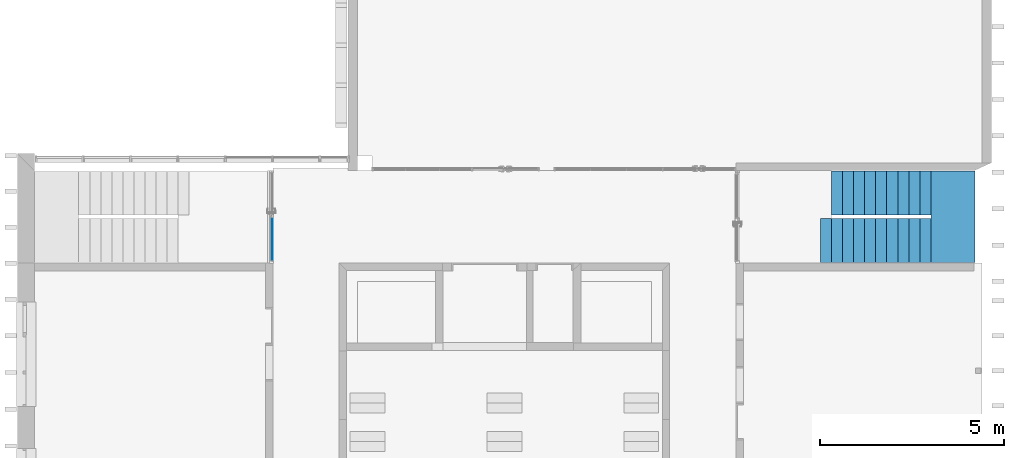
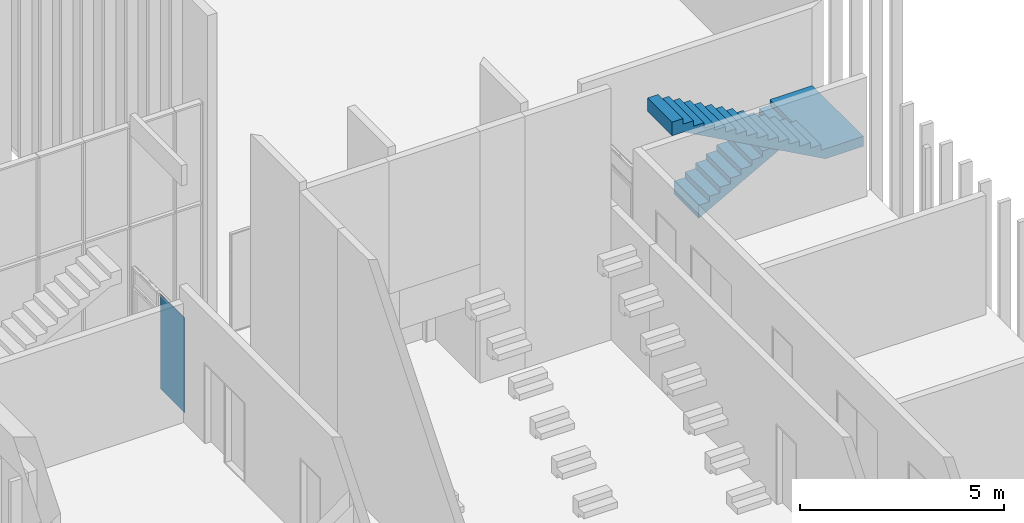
# One storey, part 38 of 62: 2 building element parts, 1 stair, 2 elements without a shape of their own.
"""IFC2X3 building model written with IfcOpenShell, lengths in millimetres."""

from ifc_helpers import new_model, entity, si_unit, converted_unit, derived_unit, money_unit, direction, frame, origin_with_axes, place, context, subcontext, project, spatial, faceted_brep, material, material_list, type_object, element, aggregate, save


model = new_model("IFC2X3")

# Units and contexts
model_context = context("Model", 3, precision=0.01, world=origin_with_axes(), true_north=direction((0.0, 1.0)))
body_context = subcontext(model_context, "Body", "Model", "MODEL_VIEW")
ifc_project = project(units=[si_unit("LENGTHUNIT", "METRE", prefix="MILLI"), si_unit("AREAUNIT", "SQUARE_METRE"), si_unit("VOLUMEUNIT", "CUBIC_METRE"), converted_unit("PLANEANGLEUNIT", "DEGREE", entity("IfcPlaneAngleMeasure", 0.0174532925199), si_unit("PLANEANGLEUNIT", "RADIAN"), dimensions=[0, 0, 0, 0, 0, 0, 0]), si_unit("SOLIDANGLEUNIT", "STERADIAN"), money_unit("EUR"), converted_unit("TIMEUNIT", "Year", entity("IfcTimeMeasure", 31556926.0), si_unit("TIMEUNIT", "SECOND"), dimensions=[0, 0, 1, 0, 0, 0, 0]), si_unit("MASSUNIT", "GRAM", prefix="KILO"), si_unit("THERMODYNAMICTEMPERATUREUNIT", "DEGREE_CELSIUS"), si_unit("LUMINOUSINTENSITYUNIT", "LUMEN"), si_unit("ENERGYUNIT", "JOULE", prefix="MEGA"), derived_unit("THERMALCONDUCTANCEUNIT", [(si_unit("POWERUNIT", "WATT"), 1), (si_unit("LENGTHUNIT", "METRE"), -1), (si_unit("THERMODYNAMICTEMPERATUREUNIT", "KELVIN"), -1)]), derived_unit("SPECIFICHEATCAPACITYUNIT", [(si_unit("ENERGYUNIT", "JOULE"), 1), (si_unit("MASSUNIT", "GRAM", prefix="KILO"), -1), (si_unit("THERMODYNAMICTEMPERATUREUNIT", "KELVIN"), -1)]), derived_unit("MASSDENSITYUNIT", [(si_unit("MASSUNIT", "GRAM", prefix="KILO"), 1), (si_unit("VOLUMEUNIT", "CUBIC_METRE"), -1)])], contexts=[model_context])

# Site, building, storey
site_placement = place(None, origin_with_axes())
site = spatial("IfcSite", under=ifc_project, at=site_placement, Name="Puškini 31, Narva", CompositionType="ELEMENT")
building_placement = place(site_placement, origin_with_axes())
building = spatial("IfcBuilding", under=site, at=building_placement, Name="Narva Riigigümnaasium", CompositionType="ELEMENT")
storey_placement = place(building_placement, frame((0.0, 0.0, 660.0), z_axis=(0.0, 0.0, 1.0), x_axis=(1.0, 0.0, 0.0)))
storey = spatial("IfcBuildingStorey", under=building, at=storey_placement, Name="2.korrus +0.66", CompositionType="ELEMENT", Elevation=660.0)

# Stair
ifc_material_1 = material(Name="Betoon element")
ifc_material_list = material_list([ifc_material_1, ifc_material_1, ifc_material_1])
stair_placement = place(storey_placement, frame((50109.9996857, 222589.999992, 0.0), z_axis=(0.0, 0.0, 1.0), x_axis=(1.0, 0.0, 0.0)))
element("IfcStair", 1, at=stair_placement, inside=storey, material=ifc_material_list, Name="G-TR-08", ShapeType="NOTDEFINED", context=body_context, shape_type="Brep", body=[
    faceted_brep([(2699.99998558, 3.9951768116e-05, 1350.0), (2699.99998558, 1200.00004687, 1350.0), (2699.99998558, 1200.00003245, 1485.0), (2700.0, 3.24517941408e-05, 1485.0), (2869.55315991, 3.9951768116e-05, 1350.0), (2869.55315687, 1200.00004687, 1350.0), (2699.99998558, 1200.00004687, 1256.74575579), (2599.99998558, 1200.00003125, 1201.74575579), (2499.99998558, 1200.00003005, 1146.74575579), (2399.99998558, 1200.00002885, 1091.74575579), (2324.99998558, 1200.00002794, 1050.49575579), (2299.99998558, 1200.00002764, 1036.74575579), (2249.99998558, 1200.00002704, 1009.24575579), (2199.99998558, 1200.00002644, 981.74575579), (2174.99998558, 1200.00002614, 967.99575579), (2099.99998558, 1200.00002524, 926.74575579), (2024.99998558, 1200.00002434, 885.49575579), (1949.99998558, 1200.00002344, 844.24575579), (1874.99998558, 1200.00002254, 802.99575579), (1799.99998558, 1200.00002163, 761.74575579), (1724.99998558, 1200.00002073, 720.49575579), (1699.99998558, 1200.00002043, 706.74575579), (1649.99998558, 1200.00001983, 679.24575579), (1599.99998558, 1200.00001923, 651.74575579), (1574.99998558, 1200.00001893, 637.99575579), (1499.99998558, 1200.00001803, 596.74575579), (1399.99998558, 1200.00001683, 541.74575579), (1299.99998558, 1200.00001562, 486.74575579), (1199.99998558, 1200.00001442, 431.74575579), (1124.99998558, 1200.00001352, 390.49575579), (1049.99998558, 1200.00001262, 349.24575579), (974.999985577, 1200.00001172, 307.99575579), (899.999985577, 1200.00001082, 266.74575579), (799.999985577, 1200.00000962, 211.74575579), (699.999985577, 1200.00000841, 156.74575579), (599.999985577, 1200.00000721, 101.74575579), (524.999985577, 1200.00000631, 60.4957557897), (449.999985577, 1200.00000541, 19.2457557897), (374.999985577, 1200.00000451, -22.0042442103), (299.999985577, 1200.00000361, -63.2542442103), (199.999985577, 1200.0000024, -118.25424421), (99.999985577, 1200.0000012, -173.25424421), (-1.44230196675e-05, 1200.0, -228.25424421), (-1.44230196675e-05, 1200.0, 165.0), (299.999985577, 1200.00000361, 165.0), (299.999985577, 1200.00000361, 330.0), (599.999985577, 1200.00000721, 330.0), (599.999985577, 1200.00000721, 495.0), (899.999985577, 1200.00001082, 495.0), (899.999985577, 1200.00001082, 660.0), (1199.99998558, 1200.00001442, 660.0), (1199.99998558, 1200.00001442, 825.0), (1499.99998558, 1200.00001803, 825.0), (1499.99998558, 1200.00001803, 990.0), (1799.99998558, 1200.00002163, 990.0), (1799.99998558, 1200.00002163, 1155.0), (2099.99998558, 1200.00002524, 1155.0), (2099.99998558, 1200.00002524, 1320.0), (2399.99998558, 1200.00002885, 1320.0), (2399.99998558, 1200.00002885, 1485.0), (2400.0, 2.88460392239e-05, 1485.0), (2400.0, 2.88460392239e-05, 1320.0), (2100.0, 2.52402843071e-05, 1320.0), (2100.0, 2.52402843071e-05, 1155.0), (1800.0, 2.16345293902e-05, 1155.0), (1800.0, 2.16345293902e-05, 990.0), (1500.0, 1.80287744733e-05, 990.0), (1500.0, 1.80287744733e-05, 825.0), (1200.0, 1.44230196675e-05, 825.0), (1200.0, 1.44230196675e-05, 660.0), (900.0, 1.08172647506e-05, 660.0), (900.0, 1.08172647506e-05, 495.0), (600.0, 7.21150983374e-06, 495.0), (600.0, 7.21150983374e-06, 330.0), (300.0, 3.60575491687e-06, 330.0), (300.0, 3.60575491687e-06, 165.0), (0.0, 0.0, 165.0), (0.0, 0.0, -228.25424421), (100.0, 1.20191834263e-06, -173.25424421), (200.0, 2.40383646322e-06, -118.25424421), (300.0, 3.6057545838e-06, -63.2542442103), (375.0, 4.50719384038e-06, -22.0042442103), (450.0, 5.40863231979e-06, 19.2457557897), (525.0, 6.31007091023e-06, 60.4957557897), (600.0, 7.21150950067e-06, 101.74575579), (700.0, 8.41342806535e-06, 156.74575579), (800.0, 9.615346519e-06, 211.74575579), (900.0, 1.08172649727e-05, 266.74575579), (975.0, 1.17187036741e-05, 307.99575579), (1050.0, 1.26201423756e-05, 349.24575579), (1125.0, 1.3521581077e-05, 390.49575579), (1200.0, 1.44230197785e-05, 431.74575579), (1300.0, 1.56249380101e-05, 486.74575579), (1400.0, 1.68268561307e-05, 541.74575579), (1500.0, 1.80287742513e-05, 596.74575579), (1575.0, 1.89302133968e-05, 637.99575579), (1600.0, 1.9230692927e-05, 651.74575579), (1650.0, 1.98316519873e-05, 679.24575579), (1700.0, 2.04326110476e-05, 706.74575579), (1725.0, 2.07330905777e-05, 720.49575579), (1800.0, 2.16345290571e-05, 761.74575579), (1875.0, 2.25359678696e-05, 802.99575579), (1950.0, 2.34374065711e-05, 844.24575579), (2025.0, 2.43388452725e-05, 885.49575579), (2100.0, 2.5240284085e-05, 926.74575579), (2175.0, 2.61417227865e-05, 967.99575579), (2200.0, 2.64422024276e-05, 981.74575579), (2250.0, 2.7043161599e-05, 1009.24575579), (2300.0, 2.76441207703e-05, 1036.74575579), (2325.0, 2.79446004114e-05, 1050.49575579), (2400.0, 2.88460391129e-05, 1091.74575579), (2500.0, 3.00479575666e-05, 1146.74575579), (2600.0, 3.12498759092e-05, 1201.74575579), (2699.99998558, 3.9951768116e-05, 1256.74574786)], [[[0, 1, 2, 3]], [[1, 0, 4, 5]], [[6, 7, 8, 9, 10, 11, 12, 13, 14, 15, 16, 17, 18, 19, 20, 21, 22, 23, 24, 25, 26, 27, 28, 29, 30, 31, 32, 33, 34, 35, 36, 37, 38, 39, 40, 41, 42, 43, 44, 45, 46, 47, 48, 49, 50, 51, 52, 53, 54, 55, 56, 57, 58, 59, 2, 1, 5]], [[60, 3, 2, 59]], [[0, 3, 60, 61, 62, 63, 64, 65, 66, 67, 68, 69, 70, 71, 72, 73, 74, 75, 76, 77, 78, 79, 80, 81, 82, 83, 84, 85, 86, 87, 88, 89, 90, 91, 92, 93, 94, 95, 96, 97, 98, 99, 100, 101, 102, 103, 104, 105, 106, 107, 108, 109, 110, 111, 112, 113, 4]], [[113, 112, 7, 6, 5, 4]], [[111, 8, 7, 112]], [[110, 9, 8, 111]], [[109, 10, 9, 110]], [[108, 11, 10, 109]], [[107, 12, 11, 108]], [[106, 13, 12, 107]], [[105, 14, 13, 106]], [[104, 15, 14, 105]], [[103, 16, 15, 104]], [[102, 17, 16, 103]], [[101, 18, 17, 102]], [[100, 19, 18, 101]], [[99, 20, 19, 100]], [[98, 21, 20, 99]], [[97, 22, 21, 98]], [[96, 23, 22, 97]], [[95, 24, 23, 96]], [[94, 25, 24, 95]], [[93, 26, 25, 94]], [[92, 27, 26, 93]], [[91, 28, 27, 92]], [[90, 29, 28, 91]], [[89, 30, 29, 90]], [[88, 31, 30, 89]], [[87, 32, 31, 88]], [[86, 33, 32, 87]], [[85, 34, 33, 86]], [[84, 35, 34, 85]], [[83, 36, 35, 84]], [[82, 37, 36, 83]], [[81, 38, 37, 82]], [[80, 39, 38, 81]], [[79, 40, 39, 80]], [[78, 41, 40, 79]], [[77, 42, 41, 78]], [[43, 42, 77, 76]], [[43, 76, 75, 44]], [[74, 45, 44, 75]], [[45, 74, 73, 46]], [[72, 47, 46, 73]], [[47, 72, 71, 48]], [[70, 49, 48, 71]], [[49, 70, 69, 50]], [[68, 51, 50, 69]], [[51, 68, 67, 52]], [[66, 53, 52, 67]], [[53, 66, 65, 54]], [[64, 55, 54, 65]], [[55, 64, 63, 56]], [[62, 57, 56, 63]], [[57, 62, 61, 58]], [[60, 59, 58, 61]]]),
    faceted_brep([(2830.44681298, -99.9999606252, 1650.0), (2830.44681298, -1299.99996755, 1650.0), (3899.99984349, -1299.99996755, 1650.0), (3900.00014151, 1200.00004687, 1650.0), (2699.99998558, 1200.00004687, 1650.0), (2699.99998558, -99.9999606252, 1650.0), (2830.44681298, -99.9999606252, 1350.0), (2830.44681298, -1299.99996755, 1350.0), (3899.99984349, -1299.99996755, 1350.0), (3900.00014151, 1200.00004687, 1350.0), (2699.99998558, 1200.00004687, 1350.0), (2699.99998558, -99.9999606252, 1350.0)], [[[0, 1, 2, 3, 4, 5]], [[1, 0, 6, 7]], [[1, 7, 8, 2]], [[2, 8, 9, 3]], [[3, 9, 10, 4]], [[11, 5, 4, 10]], [[0, 5, 11, 6]], [[6, 11, 10, 9, 8, 7]]]),
    faceted_brep([(-1100.00000457, -1299.99999047, 3511.74575579), (-1178.64408495, -1299.99999094, 3555.0), (-1178.64409219, -99.9999909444, 3555.0), (-1100.00001181, -99.99999047, 3511.74575579), (-1500.00000457, -1299.99999288, 3555.0), (-1000.00000457, -1299.99998987, 3456.74575579), (-900.000004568, -1299.99998926, 3401.74575579), (-825.000004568, -1299.99998881, 3360.49575579), (-750.000004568, -1299.99998836, 3319.24575579), (-675.000004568, -1299.99998791, 3277.99575579), (-600.000004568, -1299.99998745, 3236.74575579), (-525.000004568, -1299.999987, 3195.49575579), (-450.000004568, -1299.99998655, 3154.24575579), (-375.000004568, -1299.9999861, 3112.99575579), (-300.000004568, -1299.99998564, 3071.74575579), (-200.000004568, -1299.99998504, 3016.74575579), (-100.000004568, -1299.99998444, 2961.74575579), (-4.56777415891e-06, -1299.99998383, 2906.74575579), (74.9999954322, -1299.99998338, 2865.49575579), (149.999995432, -1299.99998293, 2824.24575579), (224.999995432, -1299.99998248, 2782.99575579), (299.999995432, -1299.99998203, 2741.74575579), (399.999995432, -1299.99998142, 2686.74575579), (499.999995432, -1299.99998082, 2631.74575579), (599.999995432, -1299.99998022, 2576.74575579), (674.999995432, -1299.99997976, 2535.49575579), (749.999995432, -1299.99997931, 2494.24575579), (824.999995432, -1299.99997886, 2452.99575579), (899.999995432, -1299.99997841, 2411.74575579), (974.999995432, -1299.99997795, 2370.49575579), (999.999995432, -1299.9999778, 2356.74575579), (1049.99999543, -1299.9999775, 2329.24575579), (1099.99999543, -1299.9999772, 2301.74575579), (1124.99999543, -1299.99997705, 2287.99575579), (1199.99999543, -1299.9999766, 2246.74575579), (1299.99999543, -1299.99997599, 2191.74575579), (1399.99999543, -1299.99997539, 2136.74575579), (1499.99999543, -1299.99997479, 2081.74575578), (1574.99999543, -1299.99997433, 2040.49575575), (1649.99999543, -1299.99997388, 1999.24575571), (1724.99999543, -1299.99997343, 1957.99575566), (1799.99999543, -1299.99997298, 1916.74575554), (1874.99999543, -1299.99997252, 1875.49575535), (1899.99999543, -1299.99997237, 1861.74575525), (1949.99999543, -1299.99997207, 1834.24575508), (1999.99999543, -1299.99997177, 1806.74575494), (2024.99999543, -1299.99997162, 1792.99575481), (2099.99999543, -1299.99997117, 1751.74575456), (2199.99999543, -1299.99997056, 1696.74575429), (2299.99999543, -1299.99996996, 1641.74575394), (2399.99999543, -1299.99996936, 1586.7457495), (2437.49998825, -1299.99996936, 1566.12075422), (2474.99998831, -1299.99996936, 1545.49575497), (2512.49998836, -1299.99996936, 1524.87075497), (2549.99998842, -1299.99996936, 1504.24575497), (2587.49998848, -1299.99996936, 1483.62075518), (2624.99998853, -1299.99996936, 1462.99575538), (2662.49998859, -1299.99996936, 1442.37075563), (2699.99998558, -1299.99996755, 1421.74575756), (2830.44681298, -1299.99996755, 1350.0000026), (2830.44681298, -1299.99996755, 1650.0), (2699.99998558, -1299.99996755, 1650.0), (2699.99998865, -1299.99996936, 1815.0), (2399.99999543, -1299.99996936, 1815.0), (2399.99999543, -1299.99996936, 1980.0), (2099.99999543, -1299.99997117, 1980.0), (2099.99999543, -1299.99997117, 2145.0), (1799.99999543, -1299.99997298, 2145.0), (1799.99999543, -1299.99997298, 2310.0), (1499.99999543, -1299.99997479, 2310.0), (1499.99999543, -1299.99997479, 2475.0), (1199.99999543, -1299.9999766, 2475.0), (1199.99999543, -1299.9999766, 2640.0), (899.999995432, -1299.99997841, 2640.0), (899.999995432, -1299.99997841, 2805.0), (599.999995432, -1299.99998022, 2805.0), (599.999995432, -1299.99998022, 2970.0), (299.999995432, -1299.99998203, 2970.0), (299.999995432, -1299.99998203, 3135.0), (-4.56777415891e-06, -1299.99998383, 3135.0), (-4.56777415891e-06, -1299.99998383, 3300.0), (-300.000004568, -1299.99998564, 3300.0), (-300.000004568, -1299.99998564, 3465.0), (-600.000004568, -1299.99998745, 3465.0), (-600.000004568, -1299.99998745, 3630.0), (-900.000004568, -1299.99998926, 3630.0), (-900.000004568, -1299.99998926, 3795.0), (-1200.00000457, -1299.99999107, 3795.0), (-1200.00000457, -1299.99999107, 3960.0), (-1500.00000457, -1299.99999288, 3960.0), (-1500.00000457, -1299.99999288, 3731.74575579), (-1500.00001181, -99.9999928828, 3555.0), (-1500.00001181, -99.9999928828, 3731.74575579), (-1500.00001181, -99.9999928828, 3960.0), (-1200.00001181, -99.9999910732, 3960.0), (-1200.00001181, -99.9999910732, 3795.0), (-900.000011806, -99.9999892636, 3795.0), (-900.000011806, -99.9999892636, 3630.0), (-600.000011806, -99.999987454, 3630.0), (-600.000011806, -99.999987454, 3465.0), (-300.000011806, -99.9999856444, 3465.0), (-300.000011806, -99.9999856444, 3300.0), (-1.18062399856e-05, -99.9999838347, 3300.0), (-1.18062399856e-05, -99.9999838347, 3135.0), (299.999988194, -99.9999820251, 3135.0), (299.999988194, -99.9999820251, 2970.0), (599.999988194, -99.9999802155, 2970.0), (599.999988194, -99.9999802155, 2805.0), (899.999988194, -99.9999784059, 2805.0), (899.999988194, -99.9999784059, 2640.0), (1199.99998819, -99.9999765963, 2640.0), (1199.99998819, -99.9999765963, 2475.0), (1499.99998819, -99.9999747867, 2475.0), (1499.99998819, -99.9999747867, 2310.0), (1799.99998819, -99.999972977, 2310.0), (1799.99998819, -99.999972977, 2145.0), (2099.99998819, -99.9999711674, 2145.0), (2099.99998819, -99.9999711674, 1980.0), (2399.99998819, -99.9999693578, 1980.0), (2399.99998819, -99.9999693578, 1815.0), (2699.99998865, -99.9999675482, 1815.0), (2699.99998558, -99.9999606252, 1650.0), (2830.44681298, -99.9999606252, 1650.0), (2830.44681298, -99.9999606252, 1350.0000026), (2699.99998558, -99.9999606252, 1421.74575756), (2662.49998859, -99.9999675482, 1442.37075587), (2624.99998853, -99.9999675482, 1462.99575586), (2587.49998848, -99.9999675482, 1483.62075586), (2549.99998842, -99.9999675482, 1504.24575586), (2512.49998836, -99.9999675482, 1524.87075586), (2474.99998831, -99.9999675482, 1545.49575585), (2437.49998825, -99.9999675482, 1566.12075585), (2399.99998819, -99.9999693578, 1586.7457557), (2299.99998819, -99.999969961, 1641.74575576), (2199.99998819, -99.9999705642, 1696.74575573), (2099.99998819, -99.9999711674, 1751.74575573), (2024.99998819, -99.9999716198, 1792.99575577), (1999.99998819, -99.9999717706, 1806.74575575), (1949.99998819, -99.9999720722, 1834.24575575), (1899.99998819, -99.9999723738, 1861.74575577), (1874.99998819, -99.9999725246, 1875.49575573), (1799.99998819, -99.999972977, 1916.74575577), (1724.99998819, -99.9999734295, 1957.99575578), (1649.99998819, -99.9999738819, 1999.24575578), (1574.99998819, -99.9999743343, 2040.49575578), (1499.99998819, -99.9999747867, 2081.74575579), (1399.99998819, -99.9999753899, 2136.74575579), (1299.99998819, -99.9999759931, 2191.74575579), (1199.99998819, -99.9999765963, 2246.74575579), (1124.99998819, -99.9999770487, 2287.99575579), (1099.99998819, -99.9999771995, 2301.74575579), (1049.99998819, -99.9999775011, 2329.24575579), (999.999988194, -99.9999778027, 2356.74575579), (974.999988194, -99.9999779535, 2370.49575579), (899.999988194, -99.9999784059, 2411.74575579), (824.999988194, -99.9999788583, 2452.99575579), (749.999988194, -99.9999793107, 2494.24575579), (674.999988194, -99.9999797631, 2535.49575579), (599.999988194, -99.9999802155, 2576.74575579), (499.999988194, -99.9999808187, 2631.74575579), (399.999988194, -99.9999814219, 2686.74575579), (299.999988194, -99.9999820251, 2741.74575579), (224.999988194, -99.9999824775, 2782.99575579), (149.999988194, -99.9999829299, 2824.24575579), (74.9999881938, -99.9999833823, 2865.49575579), (-1.18062399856e-05, -99.9999838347, 2906.74575579), (-100.000011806, -99.999984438, 2961.74575579), (-200.000011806, -99.9999850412, 3016.74575579), (-300.000011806, -99.9999856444, 3071.74575579), (-375.000011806, -99.9999860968, 3112.99575579), (-450.000011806, -99.9999865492, 3154.24575579), (-525.000011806, -99.9999870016, 3195.49575579), (-600.000011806, -99.999987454, 3236.74575579), (-675.000011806, -99.9999879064, 3277.99575579), (-750.000011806, -99.9999883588, 3319.24575579), (-825.000011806, -99.9999888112, 3360.49575579), (-900.000011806, -99.9999892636, 3401.74575579), (-1000.00001181, -99.9999898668, 3456.74575579), (2399.99998819, -399.999968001, 1586.74575526), (2399.99998819, -999.999968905, 1586.74575408), (2474.99998831, -999.999968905, 1545.49575519), (2549.99998842, -999.999968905, 1504.24575519), (2624.99998853, -999.999968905, 1462.9957555), (2662.49998859, -699.999968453, 1442.37075575), (2624.99998853, -399.999968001, 1462.99575574), (2549.99998842, -399.999968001, 1504.24575563), (2474.99998831, -399.999968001, 1545.49575563), (2437.49998825, -699.999968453, 1566.12075504), (2512.49998836, -699.999968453, 1524.87075541), (2587.49998848, -699.999968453, 1483.62075552)], [[[0, 1, 2, 3]], [[4, 1, 0, 5, 6, 7, 8, 9, 10, 11, 12, 13, 14, 15, 16, 17, 18, 19, 20, 21, 22, 23, 24, 25, 26, 27, 28, 29, 30, 31, 32, 33, 34, 35, 36, 37, 38, 39, 40, 41, 42, 43, 44, 45, 46, 47, 48, 49, 50, 51, 52, 53, 54, 55, 56, 57, 58, 59, 60, 61, 62, 63, 64, 65, 66, 67, 68, 69, 70, 71, 72, 73, 74, 75, 76, 77, 78, 79, 80, 81, 82, 83, 84, 85, 86, 87, 88, 89, 90]], [[91, 2, 1, 4]], [[3, 2, 91, 92, 93, 94, 95, 96, 97, 98, 99, 100, 101, 102, 103, 104, 105, 106, 107, 108, 109, 110, 111, 112, 113, 114, 115, 116, 117, 118, 119, 120, 121, 122, 123, 124, 125, 126, 127, 128, 129, 130, 131, 132, 133, 134, 135, 136, 137, 138, 139, 140, 141, 142, 143, 144, 145, 146, 147, 148, 149, 150, 151, 152, 153, 154, 155, 156, 157, 158, 159, 160, 161, 162, 163, 164, 165, 166, 167, 168, 169, 170, 171, 172, 173, 174, 175, 176, 177]], [[3, 177, 5, 0]], [[177, 176, 6, 5]], [[176, 175, 7, 6]], [[175, 174, 8, 7]], [[174, 173, 9, 8]], [[173, 172, 10, 9]], [[172, 171, 11, 10]], [[171, 170, 12, 11]], [[170, 169, 13, 12]], [[169, 168, 14, 13]], [[168, 167, 15, 14]], [[167, 166, 16, 15]], [[166, 165, 17, 16]], [[165, 164, 18, 17]], [[164, 163, 19, 18]], [[163, 162, 20, 19]], [[162, 161, 21, 20]], [[161, 160, 22, 21]], [[160, 159, 23, 22]], [[159, 158, 24, 23]], [[158, 157, 25, 24]], [[157, 156, 26, 25]], [[156, 155, 27, 26]], [[155, 154, 28, 27]], [[154, 153, 29, 28]], [[153, 152, 30, 29]], [[152, 151, 31, 30]], [[151, 150, 32, 31]], [[150, 149, 33, 32]], [[149, 148, 34, 33]], [[148, 147, 35, 34]], [[147, 146, 36, 35]], [[146, 145, 37, 36]], [[145, 144, 38, 37]], [[144, 143, 39, 38]], [[143, 142, 40, 39]], [[142, 141, 41, 40]], [[141, 140, 42, 41]], [[140, 139, 43, 42]], [[139, 138, 44, 43]], [[138, 137, 45, 44]], [[137, 136, 46, 45]], [[136, 135, 47, 46]], [[135, 134, 48, 47]], [[134, 133, 49, 48]], [[178, 179, 50, 49, 133, 132]], [[179, 51, 50]], [[180, 52, 51]], [[180, 53, 52]], [[181, 54, 53]], [[181, 55, 54]], [[182, 56, 55]], [[182, 57, 56]], [[183, 184, 125, 124, 58, 57, 182]], [[124, 123, 59, 58]], [[122, 60, 59, 123]], [[61, 60, 122, 121]], [[121, 120, 62, 61]], [[120, 119, 63, 62]], [[64, 63, 119, 118]], [[118, 117, 65, 64]], [[66, 65, 117, 116]], [[116, 115, 67, 66]], [[68, 67, 115, 114]], [[114, 113, 69, 68]], [[70, 69, 113, 112]], [[112, 111, 71, 70]], [[72, 71, 111, 110]], [[110, 109, 73, 72]], [[74, 73, 109, 108]], [[108, 107, 75, 74]], [[76, 75, 107, 106]], [[106, 105, 77, 76]], [[78, 77, 105, 104]], [[104, 103, 79, 78]], [[80, 79, 103, 102]], [[102, 101, 81, 80]], [[82, 81, 101, 100]], [[100, 99, 83, 82]], [[84, 83, 99, 98]], [[98, 97, 85, 84]], [[86, 85, 97, 96]], [[96, 95, 87, 86]], [[88, 87, 95, 94]], [[94, 93, 89, 88]], [[89, 93, 92, 90]], [[91, 4, 90, 92]], [[184, 126, 125]], [[184, 127, 126]], [[185, 128, 127]], [[185, 129, 128]], [[186, 130, 129]], [[186, 131, 130]], [[178, 132, 131]], [[179, 178, 187]], [[180, 51, 179, 187]], [[188, 181, 53, 180]], [[189, 182, 55, 181]], [[182, 184, 183]], [[127, 184, 189, 185]], [[185, 188, 186, 129]], [[186, 187, 178, 131]], [[180, 187, 186]], [[181, 188, 185]], [[180, 186, 188]], [[189, 184, 182]], [[181, 185, 189]]]),
])

# Curtain wall, plate, building element parts
curtain_wall_type = type_object("IfcCurtainWallType", Name="Curtain Wall Type", PredefinedType="NOTDEFINED")
curtain_wall_placement = place(storey_placement, frame((34855.0128096, 223200.000065, -2.45869393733e-05), z_axis=(0.0, 0.0, 1.0), x_axis=(1.0, 0.0, 0.0)))
curtain_wall = element("IfcCurtainWall", 2, at=curtain_wall_placement, inside=storey, type_object=curtain_wall_type, Name="G-SKLF-50")
plate_type = type_object("IfcPlateType", Name="1248 x 519 x 20", PredefinedType="CURTAIN_PANEL")
plate_placement = place(curtain_wall_placement, frame((-0.00572370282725, -1334.67198129, 1188.88889792), z_axis=(0.0, 0.0, 1.0), x_axis=(4.28847155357e-06, 0.999999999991, 0.0)))
plate = element("IfcPlate", 3, at=plate_placement, type_object=plate_type, Name="G-SKLF-50-klaas", ObjectType="CURTAIN_PANEL")
aggregate(curtain_wall, [plate])
ifc_material_2 = material(Name="VKR-05_Klaas")
building_element_part_1_placement = place(plate_placement, origin_with_axes())
building_element_part_1 = element("IfcBuildingElementPart", 4, at=building_element_part_1_placement, material=ifc_material_2, Name="VKR-05_Klaas", context=body_context, shape_type="Brep", body=[
    faceted_brep([(-524.175321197, -17.0, 1699.94639142), (-524.175321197, -22.0, 1699.94639142), (652.307219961, -22.0, 1699.94643538), (652.307219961, -17.0, 1699.94643538), (-524.175365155, -17.0, -1127.72420664), (-524.175365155, -22.0, -1127.72420664), (652.307219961, -22.0, -1127.72420664), (652.307219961, -17.0, -1127.72420664)], [[[0, 1, 2, 3]], [[4, 5, 1, 0]], [[1, 5, 6, 2]], [[3, 2, 6, 7]], [[0, 3, 7, 4]], [[7, 6, 5, 4]]]),
    faceted_brep([(-524.175321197, -28.0, 1699.94639142), (-524.175321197, -33.0, 1699.94639142), (652.307219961, -33.0, 1699.94643538), (652.307219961, -28.0, 1699.94643538), (-524.175365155, -28.0, -1127.72420664), (-524.175365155, -33.0, -1127.72420664), (652.307219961, -33.0, -1127.72420664), (652.307219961, -28.0, -1127.72420664)], [[[0, 1, 2, 3]], [[4, 5, 1, 0]], [[1, 5, 6, 2]], [[3, 2, 6, 7]], [[0, 3, 7, 4]], [[7, 6, 5, 4]]]),
])
ifc_material_3 = material(Name="VKR-06_Õhkvahe")
building_element_part_2_placement = place(plate_placement, origin_with_axes())
building_element_part_2 = element("IfcBuildingElementPart", 5, at=building_element_part_2_placement, material=ifc_material_3, Name="VKR-06_Õhkvahe", context=body_context, shape_type="Brep", body=[
    faceted_brep([(-524.175321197, -22.0, 1699.94639142), (-524.175321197, -28.0, 1699.94639142), (652.307219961, -28.0, 1699.94643538), (652.307219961, -22.0, 1699.94643538), (-524.175365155, -22.0, -1127.72420664), (-524.175365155, -28.0, -1127.72420664), (652.307219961, -28.0, -1127.72420664), (652.307219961, -22.0, -1127.72420664)], [[[0, 1, 2, 3]], [[4, 5, 1, 0]], [[1, 5, 6, 2]], [[3, 2, 6, 7]], [[0, 3, 7, 4]], [[7, 6, 5, 4]]]),
])
aggregate(plate, [building_element_part_1, building_element_part_2])

save(model, "model.ifc")
